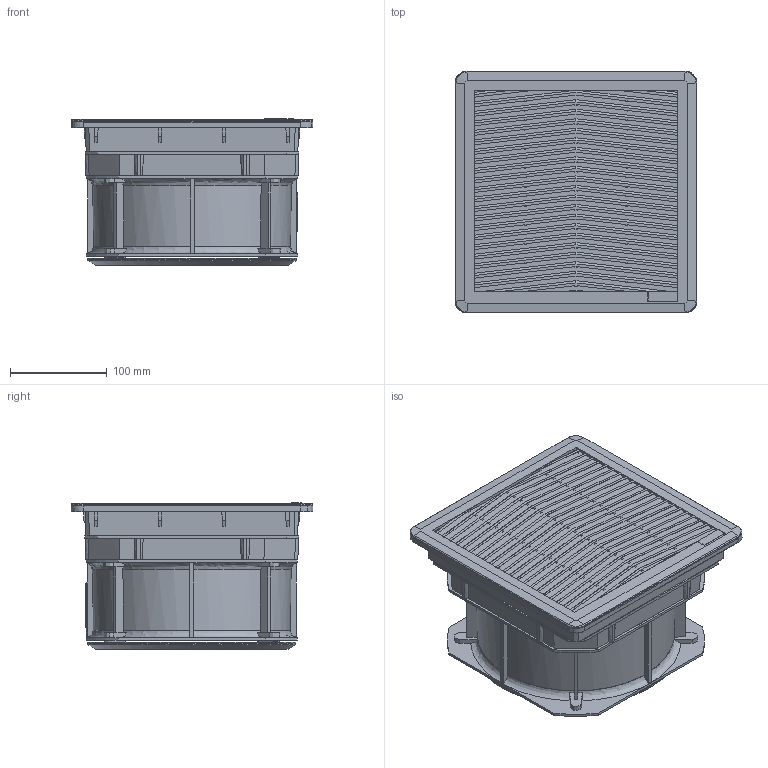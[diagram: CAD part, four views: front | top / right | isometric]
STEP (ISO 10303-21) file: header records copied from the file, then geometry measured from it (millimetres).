
FILE_DESCRIPTION(/* description */ (''),/* implementation_level */ '2;1');
FILE_NAME(/* name */ 'FF15GDAxxxyJ',/* time_stamp */ '2025-11-03T10:08:10+01:00',/* author */ (''),/* organization */ (''),/* preprocessor_version */ 'ST-DEVELOPER v16.5',/* originating_system */ 'Rhino 7.38',/* authorisation */ '');
FILE_SCHEMA (('AUTOMOTIVE_DESIGN'));
Length unit declared in the file: millimetre
Products named in the file (12): Document; FF15GDAxxxyJ; DT-04053DSI_Semplificato; DT-02093DSI_C22s semplificato con cond.; DT-02091DSI_semplificato; DT-02092DSI_b_semplificato; 040014_LK_980-01-4_Semplificata; GMP200NK_semplificata; DT-03230DSI_Assieme semplificato; DT-00159DSI_Base semplificata; DT-04082DSI_mostrina semplificata; DT-00158DSI_Sede etichetta semplificato
Assembly tree (11 placements, depth 4):
  Document
    FF15GDAxxxyJ
      DT-04053DSI_Semplificato
      DT-02093DSI_C22s semplificato con cond.
        DT-02091DSI_semplificato
        DT-02092DSI_b_semplificato
        040014_LK_980-01-4_Semplificata
      GMP200NK_semplificata
      DT-03230DSI_Assieme semplificato
        DT-00159DSI_Base semplificata
        DT-04082DSI_mostrina semplificata
        DT-00158DSI_Sede etichetta semplificato
Bounding box: 250.12 x 250.08 x 151.07 mm (x, y, z)
Volume: 6325529.6 mm3; surface area: 696021.9 mm2
Topology: 8 solids, 8 shells, 960 faces, 2717 edges, 1790 vertices
Faces by surface type: plane 745, bspline 161, cylinder 54
Entity records: 41547 total; most frequent: CARTESIAN_POINT 22796, ORIENTED_EDGE 5432, EDGE_CURVE 2716, B_SPLINE_CURVE_WITH_KNOTS 2410, VERTEX_POINT 1790, EDGE_LOOP 978, ADVANCED_FACE 960, FACE_OUTER_BOUND 960
